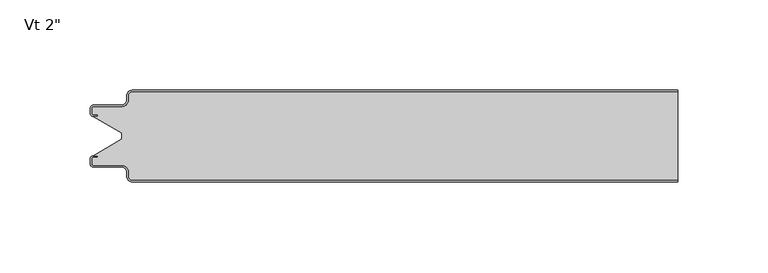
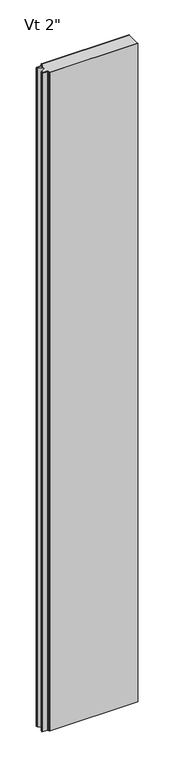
"""IFC4 building model written with IfcOpenShell, lengths in millimetres: plate geometry."""

from ifc_helpers import new_model, si_unit, frame, origin, place, context, project, spatial, polyline, circle_curve, source, transform, mapped, element, save
from ifc_brep_helpers import plane_surface, cylinder_surface, revolved_surface, advanced_brep


def plate_469c2459(model_context):
    return source(origin(), model_context, "Body", "AdvancedBrep", [
        advanced_brep(
        [(-149.8869005, -2.9775467, 2400.0), (-149.8869005, -5.2690127, 2400.0), (-153.8644925, -9.2466047, 2400.0), (-169.4612815, -9.2466047, 2400.0), (-170.0490766, -9.8343998, 2400.0), (-170.0490766, -12.9058755, 2400.0), (-169.4612228, -13.4937293, 2400.0), (-167.1062063, -13.4937293, 2400.0), (-167.1062063, -14.4937446, 2400.0), (-169.395785, -14.4937446, 2400.0), (-153.7374998, -23.7509179, 2400.0), (-153.7374998, -27.0490865, 2400.0), (-169.395785, -36.3062598, 2400.0), (-167.1062063, -36.3062598, 2400.0), (-167.1062063, -37.3062598, 2400.0), (-169.4612418, -37.3062598, 2400.0), (-170.0491185, -37.8941365, 2400.0), (-170.0491185, -40.9656854, 2400.0), (-169.4612416, -41.5535623, 2400.0), (-153.8648171, -41.5535623, 2400.0), (-149.88755, -45.5308295, 2400.0), (-149.88755, -47.8227194, 2400.0), (-147.910276, -49.7999935, 2400.0), (153.7374998, -49.8, 2400.0), (153.7374998, -1.0005251, 2400.0), (-147.9727764, -1.0005251, 2400.0), (-149.8869005, -2.9775467, 0.0), (-147.9727764, -1.0005251, 0.0), (153.7374998, -1.0005251, 0.0), (153.7374998, -49.8, 0.0), (-147.910276, -49.8, 0.0), (-149.88755, -47.8227194, 0.0), (-149.88755, -45.5308295, 0.0), (-153.8648171, -41.5535623, 0.0), (-169.4612416, -41.5535623, 0.0), (-170.0491185, -40.9656854, 0.0), (-170.0491185, -37.8941365, 0.0), (-169.4612418, -37.3062598, 0.0), (-167.1062063, -37.3062598, 0.0), (-167.1062063, -36.3062598, 0.0), (-169.395785, -36.3062598, 0.0), (-153.7374998, -27.0490865, 0.0), (-153.7374998, -23.7509179, 0.0), (-169.395785, -14.4937446, 0.0), (-167.1062063, -14.4937446, 0.0), (-167.1062063, -13.4937293, 0.0), (-169.4612228, -13.4937293, 0.0), (-170.0490766, -12.9058755, 0.0), (-170.0490766, -9.8343998, 0.0), (-169.4612815, -9.2466047, 0.0), (-153.8644925, -9.2466047, 0.0), (-149.8869005, -5.2690127, 0.0)],
        [
            (0, 1),
            (1, 2, circle_curve(frame((-153.8644925, -5.2690127, 2400.0), z_axis=(0.0, 0.0, -1.0), x_axis=(0.0, 1.0, 0.0)), 3.977592)),
            (2, 3),
            (3, 4, circle_curve(frame((-169.4612815, -9.8343998, 2400.0), z_axis=(0.0, 0.0, 1.0), x_axis=(0.0, 1.0, 0.0)), 0.5877951)),
            (4, 5),
            (5, 6, circle_curve(frame((-169.4612228, -12.9058755, 2400.0), z_axis=(0.0, 0.0, 1.0), x_axis=(0.0, 1.0, 0.0)), 0.5878538)),
            (6, 7),
            (7, 8),
            (8, 9),
            (9, 10),
            (10, 11),
            (11, 12),
            (12, 13),
            (13, 14),
            (14, 15),
            (15, 16, circle_curve(frame((-169.4612418, -37.8941365, 2400.0), z_axis=(0.0, 0.0, 1.0), x_axis=(0.0, 1.0, 0.0)), 0.5878766)),
            (16, 17),
            (17, 18, circle_curve(frame((-169.4612416, -40.9656854, 2400.0), z_axis=(0.0, 0.0, 1.0), x_axis=(0.0, 1.0, 0.0)), 0.5878769)),
            (18, 19),
            (19, 20, circle_curve(frame((-153.8648171, -45.5308295, 2400.0), z_axis=(0.0, 0.0, -1.0), x_axis=(0.0, 1.0, 0.0)), 3.9772671)),
            (20, 21),
            (21, 22, circle_curve(frame((-147.910276, -47.8227194, 2400.0), z_axis=(0.0, 0.0, 1.0), x_axis=(0.0, 1.0, 0.0)), 1.977274)),
            (22, 23),
            (23, 24),
            (24, 25),
            (25, 0, circle_curve(frame((-147.9088455, -2.9775467, 2400.0), z_axis=(0.0, 0.0, 1.0), x_axis=(0.0, 1.0, 0.0)), 1.978055)),
            (26, 27, circle_curve(frame((-147.9088455, -2.9775467, 0.0), z_axis=(0.0, 0.0, -1.0), x_axis=(0.0, 1.0, 0.0)), 1.978055)),
            (27, 28),
            (28, 29),
            (29, 30),
            (30, 31, circle_curve(frame((-147.910276, -47.8227194, 0.0), z_axis=(0.0, 0.0, -1.0), x_axis=(0.0, 1.0, 0.0)), 1.977274)),
            (31, 32),
            (32, 33, circle_curve(frame((-153.8648171, -45.5308295, 0.0), z_axis=(0.0, 0.0, 1.0), x_axis=(0.0, 1.0, 0.0)), 3.9772671)),
            (33, 34),
            (34, 35, circle_curve(frame((-169.4612416, -40.9656854, 0.0), z_axis=(0.0, 0.0, -1.0), x_axis=(0.0, 1.0, 0.0)), 0.5878769)),
            (35, 36),
            (36, 37, circle_curve(frame((-169.4612418, -37.8941365, 0.0), z_axis=(0.0, 0.0, -1.0), x_axis=(0.0, 1.0, 0.0)), 0.5878766)),
            (37, 38),
            (38, 39),
            (39, 40),
            (40, 41),
            (41, 42),
            (42, 43),
            (43, 44),
            (44, 45),
            (45, 46),
            (46, 47, circle_curve(frame((-169.4612228, -12.9058755, 0.0), z_axis=(0.0, 0.0, -1.0), x_axis=(0.0, 1.0, 0.0)), 0.5878538)),
            (47, 48),
            (48, 49, circle_curve(frame((-169.4612815, -9.8343998, 0.0), z_axis=(0.0, 0.0, -1.0), x_axis=(0.0, 1.0, 0.0)), 0.5877951)),
            (49, 50),
            (50, 51, circle_curve(frame((-153.8644925, -5.2690127, 0.0), z_axis=(0.0, 0.0, 1.0), x_axis=(0.0, 1.0, 0.0)), 3.977592)),
            (51, 26),
            (23, 29),
            (28, 24),
            (25, 27),
            (26, 0),
            (51, 1),
            (50, 2),
            (49, 3),
            (48, 4),
            (47, 5),
            (46, 6),
            (45, 7),
            (44, 8),
            (43, 9),
            (42, 10),
            (21, 31),
            (30, 22),
            (20, 32),
            (19, 33),
            (18, 34),
            (17, 35),
            (16, 36),
            (15, 37),
            (14, 38),
            (13, 39),
            (12, 40),
            (11, 41),
        ],
        [
            plane_surface(frame((422.5250002, -49.8, 2400.0), z_axis=(0.0, 0.0, 1.0), x_axis=(0.0, -1.0, 0.0))),
            plane_surface(frame((422.5250002, -49.8, 0.0), z_axis=(0.0, 0.0, -1.0), x_axis=(0.0, -1.0, 0.0))),
            plane_surface(frame((153.7374998, -60.8, 2400.0), z_axis=(1.0, 0.0, 0.0), x_axis=(0.0, 0.0, -1.0))),
            cylinder_surface(frame((-147.9088455, -2.9775467, 2400.0), z_axis=(0.0, 0.0, 1.0), x_axis=(0.0, 1.0, 0.0)), 1.978055),
            plane_surface(frame((-149.8869005, -5.2690127, 2400.0), z_axis=(-1.0, 0.0, 0.0), x_axis=(0.0, 0.0, -1.0))),
            revolved_surface(polyline([(-153.8644925, -1.2914207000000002, 0.0), (-153.8644925, -1.2914207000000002, 2400.0)]), (-153.8644925, -5.2690127, 2400.0), (0.0, 0.0, -1.0)),
            plane_surface(frame((-169.4612815, -9.2466047, 2400.0), z_axis=(0.0, 1.0, 0.0), x_axis=(0.0, 0.0, -1.0))),
            cylinder_surface(frame((-169.4612815, -9.8343998, 2400.0), z_axis=(0.0, 0.0, 1.0), x_axis=(0.0, 1.0, 0.0)), 0.5877951),
            plane_surface(frame((-170.0490766, -12.9058755, 2400.0), z_axis=(-1.0, 0.0, 0.0), x_axis=(0.0, 0.0, -1.0))),
            cylinder_surface(frame((-169.4612228, -12.9058755, 2400.0), z_axis=(0.0, 0.0, 1.0), x_axis=(0.0, 1.0, 0.0)), 0.5878538),
            plane_surface(frame((-167.1062063, -13.4937293, 2400.0), z_axis=(0.0, -1.0, 0.0), x_axis=(0.0, 0.0, -1.0))),
            plane_surface(frame((-167.1062063, -14.4937446, 2400.0), z_axis=(-1.0, 0.0, 0.0), x_axis=(0.0, 0.0, -1.0))),
            plane_surface(frame((-169.395785, -14.4937446, 2400.0), z_axis=(0.0, 1.0, 0.0), x_axis=(0.0, 0.0, -1.0))),
            plane_surface(frame((-153.7374998, -23.7509179, 2400.0), z_axis=(-0.5089147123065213, -0.860816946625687, 0.0), x_axis=(0.0, 0.0, -1.0))),
            cylinder_surface(frame((-147.910276, -47.8227194, 2400.0), z_axis=(0.0, 0.0, 1.0), x_axis=(0.0, 1.0, 0.0)), 1.977274),
            plane_surface(frame((-149.88755, -47.8227194, 2400.0), z_axis=(-1.0, 0.0, 0.0), x_axis=(0.0, 0.0, -1.0))),
            revolved_surface(polyline([(-153.8648171, -41.553562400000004, 0.0), (-153.8648171, -41.553562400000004, 2400.0)]), (-153.8648171, -45.5308295, 2400.0), (0.0, 0.0, -1.0)),
            plane_surface(frame((-153.8648171, -41.5535623, 2400.0), z_axis=(0.0, -1.0, 0.0), x_axis=(0.0, 0.0, -1.0))),
            cylinder_surface(frame((-169.4612416, -40.9656854, 2400.0), z_axis=(0.0, 0.0, 1.0), x_axis=(0.0, 1.0, 0.0)), 0.5878769),
            plane_surface(frame((-170.0491185, -40.9656854, 2400.0), z_axis=(-1.0, 0.0, 0.0), x_axis=(0.0, 0.0, -1.0))),
            cylinder_surface(frame((-169.4612418, -37.8941365, 2400.0), z_axis=(0.0, 0.0, 1.0), x_axis=(0.0, 1.0, 0.0)), 0.5878766),
            plane_surface(frame((-169.4612418, -37.3062598, 2400.0), z_axis=(0.0, 1.0, 0.0), x_axis=(0.0, 0.0, -1.0))),
            plane_surface(frame((-167.1062063, -37.3062598, 2400.0), z_axis=(-1.0, 0.0, 0.0), x_axis=(0.0, 0.0, -1.0))),
            plane_surface(frame((-167.1062063, -36.3062598, 2400.0), z_axis=(0.0, -1.0, 0.0), x_axis=(0.0, 0.0, -1.0))),
            plane_surface(frame((997.0725653, -49.8, 2400.0), z_axis=(0.0, -1.0, 0.0), x_axis=(0.0, 0.0, -1.0))),
            plane_surface(frame((-169.395785, -36.3062598, 2400.0), z_axis=(-0.5089147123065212, 0.860816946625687, 0.0), x_axis=(0.0, 0.0, -1.0))),
            plane_surface(frame((-153.7374998, -27.0490865, 2400.0), z_axis=(-1.0, 0.0, 0.0), x_axis=(0.0, 0.0, -1.0))),
            plane_surface(frame((-147.9727764, -1.0005251, 2400.0), z_axis=(0.0, 1.0, 0.0), x_axis=(0.0, 0.0, -1.0))),
        ],
        [
            (0, [[1, 2, 3, 4, 5, 6, 7, 8, 9, 10, 11, 12, 13, 14, 15, 16, 17, 18, 19, 20, 21, 22, 23, 24, 25, 26]]),
            (1, [[27, 28, 29, 30, 31, 32, 33, 34, 35, 36, 37, 38, 39, 40, 41, 42, 43, 44, 45, 46, 47, 48, 49, 50, 51, 52]]),
            (2, [[53, -29, 54, -24]]),
            (3, [[55, -27, 56, -26]]),
            (4, [[-56, -52, 57, -1]]),
            (5, [[-57, -51, 58, -2]]),
            (6, [[-58, -50, 59, -3]]),
            (7, [[-59, -49, 60, -4]]),
            (8, [[-60, -48, 61, -5]]),
            (9, [[-61, -47, 62, -6]]),
            (10, [[-62, -46, 63, -7]]),
            (11, [[-63, -45, 64, -8]]),
            (12, [[-64, -44, 65, -9]]),
            (13, [[-65, -43, 66, -10]]),
            (14, [[67, -31, 68, -22]]),
            (15, [[69, -32, -67, -21]]),
            (16, [[70, -33, -69, -20]]),
            (17, [[71, -34, -70, -19]]),
            (18, [[72, -35, -71, -18]]),
            (19, [[73, -36, -72, -17]]),
            (20, [[74, -37, -73, -16]]),
            (21, [[75, -38, -74, -15]]),
            (22, [[76, -39, -75, -14]]),
            (23, [[77, -40, -76, -13]]),
            (24, [[-30, -53, -23, -68]]),
            (25, [[78, -41, -77, -12]]),
            (26, [[-66, -42, -78, -11]]),
            (27, [[-25, -54, -28, -55]]),
        ],
    ),
        advanced_brep(
        [(-149.8873936, -2.9776189, 2400.0), (-147.9104835, -1.0007088, 2400.0), (153.7374998, -1.0007088, 2400.0), (153.7374998, 0.0, 2400.0), (-147.9102787, 0.0, 2400.0), (-150.8875472, -2.977286, 2400.0), (-150.8875472, -5.2691698, 2400.0), (-153.8648158, -8.2464384, 2400.0), (-169.4612418, -8.2464384, 2400.0), (-171.0491183, -9.8343149, 2400.0), (-171.0491183, -12.9058636, 2400.0), (-169.4612418, -14.4937401, 2400.0), (-167.1062063, -14.4937401, 2400.0), (-167.1062063, -13.4937365, 2400.0), (-169.4612373, -13.4937365, 2400.0), (-170.0491084, -12.9058654, 2400.0), (-170.0491084, -9.834334, 2400.0), (-169.4612512, -9.2464768, 2400.0), (-153.864739, -9.2464768, 2400.0), (-149.8873936, -5.2691315, 2400.0), (-149.8873936, -2.9776189, 0.0), (-149.8873936, -5.2691315, 0.0), (-153.864739, -9.2464768, 0.0), (-169.4612512, -9.2464768, 0.0), (-170.0491084, -9.834334, 0.0), (-170.0491084, -12.9058654, 0.0), (-169.4612373, -13.4937365, 0.0), (-167.1062063, -13.4937365, 0.0), (-167.1062063, -14.4937401, 0.0), (-169.4612418, -14.4937401, 0.0), (-171.0491183, -12.9058636, 0.0), (-171.0491183, -9.8343149, 0.0), (-169.4612418, -8.2464384, 0.0), (-153.8648158, -8.2464384, 0.0), (-150.8875472, -5.2691698, 0.0), (-150.8875472, -2.977286, 0.0), (-147.9102787, -1.75e-05, 0.0), (153.7374998, 0.0, 0.0), (153.7374998, -1.0007088, 0.0), (-147.9104835, -1.0007088, 0.0)],
        [
            (0, 1, circle_curve(frame((-147.9104835, -2.9776189, 2400.0), z_axis=(0.0, 0.0, -1.0), x_axis=(0.0, 1.0, 0.0)), 1.9769101)),
            (1, 2),
            (2, 3),
            (3, 4),
            (4, 5, circle_curve(frame((-147.9102787, -2.977286, 2400.0), z_axis=(0.0, 0.0, 1.0), x_axis=(0.0, 1.0, 0.0)), 2.9772685)),
            (5, 6),
            (6, 7, circle_curve(frame((-153.8648158, -5.2691698, 2400.0), z_axis=(0.0, 0.0, -1.0), x_axis=(0.0, 1.0, 0.0)), 2.9772685)),
            (7, 8),
            (8, 9, circle_curve(frame((-169.4612418, -9.8343149, 2400.0), z_axis=(0.0, 0.0, 1.0), x_axis=(0.0, 1.0, 0.0)), 1.5878765)),
            (9, 10),
            (10, 11, circle_curve(frame((-169.4612418, -12.9058636, 2400.0), z_axis=(0.0, 0.0, 1.0), x_axis=(0.0, 1.0, 0.0)), 1.5878765)),
            (11, 12),
            (12, 13),
            (13, 14),
            (14, 15, circle_curve(frame((-169.4612373, -12.9058654, 2400.0), z_axis=(0.0, 0.0, -1.0), x_axis=(0.0, 1.0, 0.0)), 0.5878711)),
            (15, 16),
            (16, 17, circle_curve(frame((-169.4612512, -9.834334, 2400.0), z_axis=(0.0, 0.0, -1.0), x_axis=(0.0, 1.0, 0.0)), 0.5878572)),
            (17, 18),
            (18, 19, circle_curve(frame((-153.864739, -5.2691315, 2400.0), z_axis=(0.0, 0.0, 1.0), x_axis=(0.0, 1.0, 0.0)), 3.9773454)),
            (19, 0),
            (20, 21),
            (21, 22, circle_curve(frame((-153.864739, -5.2691315, 0.0), z_axis=(0.0, 0.0, -1.0), x_axis=(0.0, 1.0, 0.0)), 3.9773454)),
            (22, 23),
            (23, 24, circle_curve(frame((-169.4612512, -9.834334, 0.0), z_axis=(0.0, 0.0, 1.0), x_axis=(0.0, 1.0, 0.0)), 0.5878572)),
            (24, 25),
            (25, 26, circle_curve(frame((-169.4612373, -12.9058654, 0.0), z_axis=(0.0, 0.0, 1.0), x_axis=(0.0, 1.0, 0.0)), 0.5878711)),
            (26, 27),
            (27, 28),
            (28, 29),
            (29, 30, circle_curve(frame((-169.4612418, -12.9058636, 0.0), z_axis=(0.0, 0.0, -1.0), x_axis=(0.0, 1.0, 0.0)), 1.5878765)),
            (30, 31),
            (31, 32, circle_curve(frame((-169.4612418, -9.8343149, 0.0), z_axis=(0.0, 0.0, -1.0), x_axis=(0.0, 1.0, 0.0)), 1.5878765)),
            (32, 33),
            (33, 34, circle_curve(frame((-153.8648158, -5.2691698, 0.0), z_axis=(0.0, 0.0, 1.0), x_axis=(0.0, 1.0, 0.0)), 2.9772685)),
            (34, 35),
            (35, 36, circle_curve(frame((-147.9102787, -2.977286, 0.0), z_axis=(0.0, 0.0, -1.0), x_axis=(0.0, 1.0, 0.0)), 2.9772685)),
            (36, 37),
            (37, 38),
            (38, 39),
            (39, 20, circle_curve(frame((-147.9104835, -2.9776189, 0.0), z_axis=(0.0, 0.0, 1.0), x_axis=(0.0, 1.0, 0.0)), 1.9769101)),
            (2, 38),
            (37, 3),
            (19, 21),
            (20, 0),
            (18, 22),
            (17, 23),
            (16, 24),
            (15, 25),
            (14, 26),
            (13, 27),
            (12, 28),
            (11, 29),
            (10, 30),
            (9, 31),
            (8, 32),
            (7, 33),
            (6, 34),
            (5, 35),
            (4, 36),
            (1, 39),
        ],
        [
            plane_surface(frame((422.5250002, 0.0, 2400.0), z_axis=(0.0, 0.0, 1.0), x_axis=(0.0, 1.0, 0.0))),
            plane_surface(frame((422.5250002, 0.0, 0.0), z_axis=(0.0, 0.0, -1.0), x_axis=(0.0, 1.0, 0.0))),
            plane_surface(frame((153.7374998, -60.8, 2400.0), z_axis=(1.0, 0.0, 0.0), x_axis=(0.0, 0.0, -1.0))),
            plane_surface(frame((-149.8873936, -2.9776189, 2400.0), z_axis=(1.0, 0.0, 0.0), x_axis=(0.0, 0.0, -1.0))),
            cylinder_surface(frame((-153.864739, -5.2691315, 2400.0), z_axis=(0.0, 0.0, 1.0), x_axis=(0.0, 1.0, 0.0)), 3.9773454),
            plane_surface(frame((-153.864739, -9.2464768, 2400.0), z_axis=(0.0, -1.0, 0.0), x_axis=(0.0, 0.0, -1.0))),
            revolved_surface(polyline([(-169.4612512, -9.2464768, 0.0), (-169.4612512, -9.2464768, 2400.0)]), (-169.4612512, -9.834334, 2400.0), (0.0, 0.0, -1.0)),
            plane_surface(frame((-170.0491084, -9.834334, 2400.0), z_axis=(1.0, 0.0, 0.0), x_axis=(0.0, 0.0, -1.0))),
            revolved_surface(polyline([(-169.4612373, -12.3179943, 0.0), (-169.4612373, -12.3179943, 2400.0)]), (-169.4612373, -12.9058654, 2400.0), (0.0, 0.0, -1.0)),
            plane_surface(frame((-169.4612373, -13.4937365, 2400.0), z_axis=(0.0, 1.0, 0.0), x_axis=(0.0, 0.0, -1.0))),
            plane_surface(frame((-167.1062063, -13.4937365, 2400.0), z_axis=(1.0, 0.0, 0.0), x_axis=(0.0, 0.0, -1.0))),
            plane_surface(frame((-167.1062063, -14.4937401, 2400.0), z_axis=(0.0, -1.0, 0.0), x_axis=(0.0, 0.0, -1.0))),
            cylinder_surface(frame((-169.4612418, -12.9058636, 2400.0), z_axis=(0.0, 0.0, 1.0), x_axis=(0.0, 1.0, 0.0)), 1.5878765),
            plane_surface(frame((-171.0491183, -12.9058636, 2400.0), z_axis=(-1.0, 0.0, 0.0), x_axis=(0.0, 0.0, -1.0))),
            cylinder_surface(frame((-169.4612418, -9.8343149, 2400.0), z_axis=(0.0, 0.0, 1.0), x_axis=(0.0, 1.0, 0.0)), 1.5878765),
            plane_surface(frame((-169.4612418, -8.2464384, 2400.0), z_axis=(0.0, 1.0, 0.0), x_axis=(0.0, 0.0, -1.0))),
            revolved_surface(polyline([(-153.8648158, -2.2919013, 0.0), (-153.8648158, -2.2919013, 2400.0)]), (-153.8648158, -5.2691698, 2400.0), (0.0, 0.0, -1.0)),
            plane_surface(frame((-150.8875472, -5.2691698, 2400.0), z_axis=(-1.0, 0.0, 0.0), x_axis=(0.0, 0.0, -1.0))),
            cylinder_surface(frame((-147.9102787, -2.977286, 2400.0), z_axis=(0.0, 0.0, 1.0), x_axis=(0.0, 1.0, 0.0)), 2.9772685),
            plane_surface(frame((-147.9102787, 0.0, 2400.0), z_axis=(0.0, 1.0, 0.0), x_axis=(0.0, 0.0, -1.0))),
            plane_surface(frame((997.0753372, -1.0007088, 2400.0), z_axis=(0.0, -1.0, 0.0), x_axis=(0.0, 0.0, -1.0))),
            revolved_surface(polyline([(-147.9104835, -1.0007088, 0.0), (-147.9104835, -1.0007088, 2400.0)]), (-147.9104835, -2.9776189, 2400.0), (0.0, 0.0, -1.0)),
        ],
        [
            (0, [[1, 2, 3, 4, 5, 6, 7, 8, 9, 10, 11, 12, 13, 14, 15, 16, 17, 18, 19, 20]]),
            (1, [[21, 22, 23, 24, 25, 26, 27, 28, 29, 30, 31, 32, 33, 34, 35, 36, 37, 38, 39, 40]]),
            (2, [[41, -38, 42, -3]]),
            (3, [[43, -21, 44, -20]]),
            (4, [[45, -22, -43, -19]]),
            (5, [[46, -23, -45, -18]]),
            (6, [[47, -24, -46, -17]]),
            (7, [[48, -25, -47, -16]]),
            (8, [[49, -26, -48, -15]]),
            (9, [[50, -27, -49, -14]]),
            (10, [[51, -28, -50, -13]]),
            (11, [[52, -29, -51, -12]]),
            (12, [[53, -30, -52, -11]]),
            (13, [[54, -31, -53, -10]]),
            (14, [[55, -32, -54, -9]]),
            (15, [[56, -33, -55, -8]]),
            (16, [[57, -34, -56, -7]]),
            (17, [[58, -35, -57, -6]]),
            (18, [[59, -36, -58, -5]]),
            (19, [[-4, -42, -37, -59]]),
            (20, [[-39, -41, -2, 60]]),
            (21, [[-44, -40, -60, -1]]),
        ],
    ),
        advanced_brep(
        [(-149.8873936, -47.8223811, 2400.0), (-149.8873936, -45.5308685, 2400.0), (-153.864739, -41.5535232, 2400.0), (-169.4612512, -41.5535232, 2400.0), (-170.0491084, -40.965666, 2400.0), (-170.0491084, -37.8941346, 2400.0), (-169.4612373, -37.3062635, 2400.0), (-167.1062063, -37.3062635, 2400.0), (-167.1062063, -36.3062599, 2400.0), (-169.4612418, -36.3062599, 2400.0), (-171.0491183, -37.8941364, 2400.0), (-171.0491183, -40.9656851, 2400.0), (-169.4612418, -42.5535616, 2400.0), (-153.8648158, -42.5535616, 2400.0), (-150.8875472, -45.5308302, 2400.0), (-150.8875472, -47.822714, 2400.0), (-147.9102787, -50.7999825, 2400.0), (153.7374998, -50.8, 2400.0), (153.7374998, -49.7992912, 2400.0), (-147.9104835, -49.7992912, 2400.0), (-149.8873936, -47.8223811, 0.0), (-147.9104835, -49.7992912, 0.0), (153.7374998, -49.7992912, 0.0), (153.7374998, -50.8, 0.0), (-147.9102787, -50.8, 0.0), (-150.8875472, -47.822714, 0.0), (-150.8875472, -45.5308302, 0.0), (-153.8648158, -42.5535616, 0.0), (-169.4612418, -42.5535616, 0.0), (-171.0491183, -40.9656851, 0.0), (-171.0491183, -37.8941364, 0.0), (-169.4612418, -36.3062599, 0.0), (-167.1062063, -36.3062599, 0.0), (-167.1062063, -37.3062635, 0.0), (-169.4612373, -37.3062635, 0.0), (-170.0491084, -37.8941346, 0.0), (-170.0491084, -40.965666, 0.0), (-169.4612512, -41.5535232, 0.0), (-153.864739, -41.5535232, 0.0), (-149.8873936, -45.5308685, 0.0)],
        [
            (0, 1),
            (1, 2, circle_curve(frame((-153.864739, -45.5308685, 2400.0), z_axis=(0.0, 0.0, 1.0), x_axis=(-1.0, 0.0, 0.0)), 3.9773454)),
            (2, 3),
            (3, 4, circle_curve(frame((-169.4612512, -40.965666, 2400.0), z_axis=(0.0, 0.0, -1.0), x_axis=(-1.0, 0.0, 0.0)), 0.5878572)),
            (4, 5),
            (5, 6, circle_curve(frame((-169.4612373, -37.8941346, 2400.0), z_axis=(0.0, 0.0, -1.0), x_axis=(-1.0, 0.0, 0.0)), 0.5878711)),
            (6, 7),
            (7, 8),
            (8, 9),
            (9, 10, circle_curve(frame((-169.4612418, -37.8941364, 2400.0), z_axis=(0.0, 0.0, 1.0), x_axis=(-1.0, 0.0, 0.0)), 1.5878765)),
            (10, 11),
            (11, 12, circle_curve(frame((-169.4612418, -40.9656851, 2400.0), z_axis=(0.0, 0.0, 1.0), x_axis=(-1.0, 0.0, 0.0)), 1.5878765)),
            (12, 13),
            (13, 14, circle_curve(frame((-153.8648158, -45.5308302, 2400.0), z_axis=(0.0, 0.0, -1.0), x_axis=(-1.0, 0.0, 0.0)), 2.9772685)),
            (14, 15),
            (15, 16, circle_curve(frame((-147.9102787, -47.822714, 2400.0), z_axis=(0.0, 0.0, 1.0), x_axis=(-1.0, 0.0, 0.0)), 2.9772685)),
            (16, 17),
            (17, 18),
            (18, 19),
            (19, 0, circle_curve(frame((-147.9104835, -47.8223811, 2400.0), z_axis=(0.0, 0.0, -1.0), x_axis=(-1.0, 0.0, 0.0)), 1.9769101)),
            (20, 21, circle_curve(frame((-147.9104835, -47.8223811, 0.0), z_axis=(0.0, 0.0, 1.0), x_axis=(-1.0, 0.0, 0.0)), 1.9769101)),
            (21, 22),
            (22, 23),
            (23, 24),
            (24, 25, circle_curve(frame((-147.9102787, -47.822714, 0.0), z_axis=(0.0, 0.0, -1.0), x_axis=(-1.0, 0.0, 0.0)), 2.9772685)),
            (25, 26),
            (26, 27, circle_curve(frame((-153.8648158, -45.5308302, 0.0), z_axis=(0.0, 0.0, 1.0), x_axis=(-1.0, 0.0, 0.0)), 2.9772685)),
            (27, 28),
            (28, 29, circle_curve(frame((-169.4612418, -40.9656851, 0.0), z_axis=(0.0, 0.0, -1.0), x_axis=(-1.0, 0.0, 0.0)), 1.5878765)),
            (29, 30),
            (30, 31, circle_curve(frame((-169.4612418, -37.8941364, 0.0), z_axis=(0.0, 0.0, -1.0), x_axis=(-1.0, 0.0, 0.0)), 1.5878765)),
            (31, 32),
            (32, 33),
            (33, 34),
            (34, 35, circle_curve(frame((-169.4612373, -37.8941346, 0.0), z_axis=(0.0, 0.0, 1.0), x_axis=(-1.0, 0.0, 0.0)), 0.5878711)),
            (35, 36),
            (36, 37, circle_curve(frame((-169.4612512, -40.965666, 0.0), z_axis=(0.0, 0.0, 1.0), x_axis=(-1.0, 0.0, 0.0)), 0.5878572)),
            (37, 38),
            (38, 39, circle_curve(frame((-153.864739, -45.5308685, 0.0), z_axis=(0.0, 0.0, -1.0), x_axis=(-1.0, 0.0, 0.0)), 3.9773454)),
            (39, 20),
            (17, 23),
            (22, 18),
            (16, 24),
            (21, 19),
            (20, 0),
            (39, 1),
            (38, 2),
            (37, 3),
            (4, 36),
            (35, 5),
            (34, 6),
            (33, 7),
            (32, 8),
            (31, 9),
            (30, 10),
            (29, 11),
            (28, 12),
            (27, 13),
            (26, 14),
            (25, 15),
        ],
        [
            plane_surface(frame((422.5250002, -50.8, 2400.0), z_axis=(0.0, 0.0, 1.0), x_axis=(0.0, -1.0, 0.0))),
            plane_surface(frame((422.5250002, -50.8, 0.0), z_axis=(0.0, 0.0, -1.0), x_axis=(0.0, -1.0, 0.0))),
            plane_surface(frame((153.7374998, -60.8, 2400.0), z_axis=(1.0, 0.0, 0.0), x_axis=(0.0, 0.0, -1.0))),
            plane_surface(frame((997.0725653, -50.8, 2400.0), z_axis=(0.0, -1.0, 0.0), x_axis=(0.0, 0.0, -1.0))),
            plane_surface(frame((-147.9104835, -49.7992912, 2400.0), z_axis=(0.0, 1.0, 0.0), x_axis=(0.0, 0.0, -1.0))),
            revolved_surface(polyline([(-149.8873936, -47.8223811, 0.0), (-149.8873936, -47.8223811, 2400.0)]), (-147.9104835, -47.8223811, 2400.0), (0.0, 0.0, -1.0)),
            plane_surface(frame((-149.8873936, -45.5308685, 2400.0), z_axis=(1.0, 0.0, 0.0), x_axis=(0.0, 0.0, -1.0))),
            cylinder_surface(frame((-153.864739, -45.5308685, 2400.0), z_axis=(0.0, 0.0, 1.0), x_axis=(-1.0, 0.0, 0.0)), 3.9773454),
            plane_surface(frame((-169.4612512, -41.5535232, 2400.0), z_axis=(0.0, 1.0, 0.0), x_axis=(0.0, 0.0, -1.0))),
            plane_surface(frame((-170.0491084, -37.8941346, 2400.0), z_axis=(1.0, 0.0, 0.0), x_axis=(0.0, 0.0, -1.0))),
            revolved_surface(polyline([(-170.0491084, -37.8941346, 0.0), (-170.0491084, -37.8941346, 2400.0)]), (-169.4612373, -37.8941346, 2400.0), (0.0, 0.0, -1.0)),
            plane_surface(frame((-167.1062063, -37.3062635, 2400.0), z_axis=(0.0, -1.0, 0.0), x_axis=(0.0, 0.0, -1.0))),
            plane_surface(frame((-167.1062063, -36.3062599, 2400.0), z_axis=(1.0, 0.0, 0.0), x_axis=(0.0, 0.0, -1.0))),
            plane_surface(frame((-169.4612418, -36.3062599, 2400.0), z_axis=(0.0, 1.0, 0.0), x_axis=(0.0, 0.0, -1.0))),
            cylinder_surface(frame((-169.4612418, -37.8941364, 2400.0), z_axis=(0.0, 0.0, 1.0), x_axis=(-1.0, 0.0, 0.0)), 1.5878765),
            plane_surface(frame((-171.0491183, -40.9656851, 2400.0), z_axis=(-1.0, 0.0, 0.0), x_axis=(0.0, 0.0, -1.0))),
            cylinder_surface(frame((-169.4612418, -40.9656851, 2400.0), z_axis=(0.0, 0.0, 1.0), x_axis=(-1.0, 0.0, 0.0)), 1.5878765),
            plane_surface(frame((-153.8648158, -42.5535616, 2400.0), z_axis=(0.0, -1.0, 0.0), x_axis=(0.0, 0.0, -1.0))),
            revolved_surface(polyline([(-156.8420843, -45.5308302, 0.0), (-156.8420843, -45.5308302, 2400.0)]), (-153.8648158, -45.5308302, 2400.0), (0.0, 0.0, -1.0)),
            plane_surface(frame((-150.8875472, -47.822714, 2400.0), z_axis=(-1.0, 0.0, 0.0), x_axis=(0.0, 0.0, -1.0))),
            cylinder_surface(frame((-147.9102787, -47.822714, 2400.0), z_axis=(0.0, 0.0, 1.0), x_axis=(-1.0, 0.0, 0.0)), 2.9772685),
            revolved_surface(polyline([(-170.0491084, -40.965666, 0.0), (-170.0491084, -40.965666, 2400.0)]), (-169.4612512, -40.965666, 2400.0), (0.0, 0.0, -1.0)),
        ],
        [
            (0, [[1, 2, 3, 4, 5, 6, 7, 8, 9, 10, 11, 12, 13, 14, 15, 16, 17, 18, 19, 20]]),
            (1, [[21, 22, 23, 24, 25, 26, 27, 28, 29, 30, 31, 32, 33, 34, 35, 36, 37, 38, 39, 40]]),
            (2, [[41, -23, 42, -18]]),
            (3, [[-24, -41, -17, 43]]),
            (4, [[-19, -42, -22, 44]]),
            (5, [[-44, -21, 45, -20]]),
            (6, [[-45, -40, 46, -1]]),
            (7, [[-46, -39, 47, -2]]),
            (8, [[-47, -38, 48, -3]]),
            (9, [[49, -36, 50, -5]]),
            (10, [[-50, -35, 51, -6]]),
            (11, [[-51, -34, 52, -7]]),
            (12, [[-52, -33, 53, -8]]),
            (13, [[-53, -32, 54, -9]]),
            (14, [[-54, -31, 55, -10]]),
            (15, [[-55, -30, 56, -11]]),
            (16, [[-56, -29, 57, -12]]),
            (17, [[-57, -28, 58, -13]]),
            (18, [[-58, -27, 59, -14]]),
            (19, [[-59, -26, 60, -15]]),
            (20, [[-60, -25, -43, -16]]),
            (21, [[-48, -37, -49, -4]]),
        ],
    ),
    ])


if __name__ == "__main__":
    model = new_model("IFC4")
    model_context = context("Model", 3, world=origin())
    ifc_project = project(units=[si_unit("LENGTHUNIT", "METRE", prefix="MILLI")], contexts=[model_context])
    site = spatial("IfcSite", under=ifc_project)
    building = spatial("IfcBuilding", under=site)
    placement = place(None, origin())
    plate_shape = plate_469c2459(model_context)
    element("IfcPlate", 1, ObjectType="KIP-SLI-FLI-R19-CP-Vt-FL_FL : Vt 2\"", at=placement, inside=building, context=model_context, shape_type="MappedRepresentation", body=[
        mapped(plate_shape, transform((0.0, 0.0, 0.0), x_axis=(1.0, 0.0, 0.0), y_axis=(0.0, 1.0, 0.0), z_axis=(0.0, 0.0, 1.0))),
    ])
    save(model, "model.ifc")
